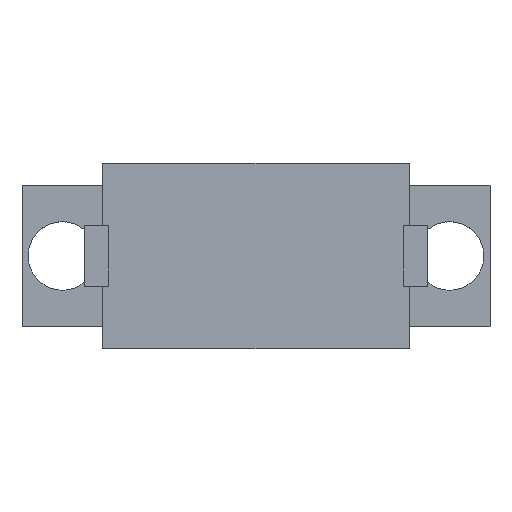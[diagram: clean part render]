
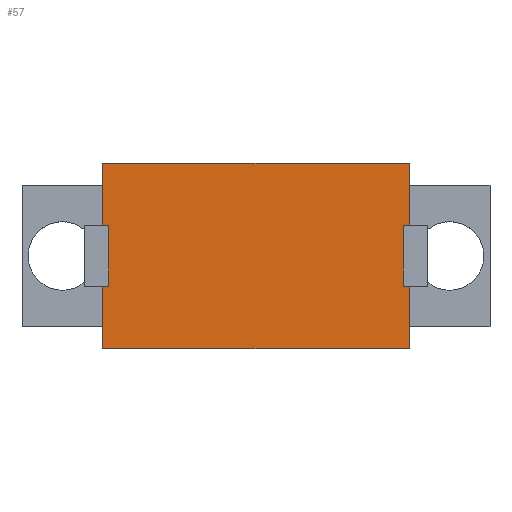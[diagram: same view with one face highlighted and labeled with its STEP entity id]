
A CAD part, top view. The second image highlights one B-rep face of the part: STEP entity #57.
In plain terms, the highlighted planar face has unit normal (0, 0, 1).
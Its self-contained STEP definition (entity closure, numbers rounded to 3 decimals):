
#21 = EDGE_CURVE('',#22,#24,#26,.T.);
#22 = VERTEX_POINT('',#23);
#23 = CARTESIAN_POINT('',(21.425,27.65,18.85));
#24 = VERTEX_POINT('',#25);
#25 = CARTESIAN_POINT('',(21.425,28.75,18.85));
#26 = LINE('',#27,#28);
#27 = CARTESIAN_POINT('',(21.425,27.65,18.85));
#28 = VECTOR('',#29,1.);
#29 = DIRECTION('',(0.,1.,0.));
#57 = ADVANCED_FACE('',(#58),#179,.T.);
#58 = FACE_BOUND('',#59,.T.);
#59 = EDGE_LOOP('',(#60,#61,#69,#77,#85,#93,#101,#109,#117,#125,#133,
    #141,#149,#157,#165,#173));
#60 = ORIENTED_EDGE('',*,*,#21,.F.);
#61 = ORIENTED_EDGE('',*,*,#62,.T.);
#62 = EDGE_CURVE('',#22,#63,#65,.T.);
#63 = VERTEX_POINT('',#64);
#64 = CARTESIAN_POINT('',(36.625,27.65,18.85));
#65 = LINE('',#66,#67);
#66 = CARTESIAN_POINT('',(21.425,27.65,18.85));
#67 = VECTOR('',#68,1.);
#68 = DIRECTION('',(1.,0.,0.));
#69 = ORIENTED_EDGE('',*,*,#70,.T.);
#70 = EDGE_CURVE('',#63,#71,#73,.T.);
#71 = VERTEX_POINT('',#72);
#72 = CARTESIAN_POINT('',(36.625,28.75,18.85));
#73 = LINE('',#74,#75);
#74 = CARTESIAN_POINT('',(36.625,27.65,18.85));
#75 = VECTOR('',#76,1.);
#76 = DIRECTION('',(0.,1.,0.));
#77 = ORIENTED_EDGE('',*,*,#78,.T.);
#78 = EDGE_CURVE('',#71,#79,#81,.T.);
#79 = VERTEX_POINT('',#80);
#80 = CARTESIAN_POINT('',(36.625,30.75,18.85));
#81 = LINE('',#82,#83);
#82 = CARTESIAN_POINT('',(36.625,27.65,18.85));
#83 = VECTOR('',#84,1.);
#84 = DIRECTION('',(0.,1.,0.));
#85 = ORIENTED_EDGE('',*,*,#86,.T.);
#86 = EDGE_CURVE('',#79,#87,#89,.T.);
#87 = VERTEX_POINT('',#88);
#88 = CARTESIAN_POINT('',(36.325,30.75,18.85));
#89 = LINE('',#90,#91);
#90 = CARTESIAN_POINT('',(28.875,30.75,18.85));
#91 = VECTOR('',#92,1.);
#92 = DIRECTION('',(-1.,0.,0.));
#93 = ORIENTED_EDGE('',*,*,#94,.T.);
#94 = EDGE_CURVE('',#87,#95,#97,.T.);
#95 = VERTEX_POINT('',#96);
#96 = CARTESIAN_POINT('',(36.325,33.75,18.85));
#97 = LINE('',#98,#99);
#98 = CARTESIAN_POINT('',(36.325,29.2,18.85));
#99 = VECTOR('',#100,1.);
#100 = DIRECTION('',(0.,1.,0.));
#101 = ORIENTED_EDGE('',*,*,#102,.F.);
#102 = EDGE_CURVE('',#103,#95,#105,.T.);
#103 = VERTEX_POINT('',#104);
#104 = CARTESIAN_POINT('',(36.625,33.75,18.85));
#105 = LINE('',#106,#107);
#106 = CARTESIAN_POINT('',(28.875,33.75,18.85));
#107 = VECTOR('',#108,1.);
#108 = DIRECTION('',(-1.,0.,0.));
#109 = ORIENTED_EDGE('',*,*,#110,.T.);
#110 = EDGE_CURVE('',#103,#111,#113,.T.);
#111 = VERTEX_POINT('',#112);
#112 = CARTESIAN_POINT('',(36.625,35.75,18.85));
#113 = LINE('',#114,#115);
#114 = CARTESIAN_POINT('',(36.625,27.65,18.85));
#115 = VECTOR('',#116,1.);
#116 = DIRECTION('',(0.,1.,0.));
#117 = ORIENTED_EDGE('',*,*,#118,.T.);
#118 = EDGE_CURVE('',#111,#119,#121,.T.);
#119 = VERTEX_POINT('',#120);
#120 = CARTESIAN_POINT('',(36.625,36.85,18.85));
#121 = LINE('',#122,#123);
#122 = CARTESIAN_POINT('',(36.625,27.65,18.85));
#123 = VECTOR('',#124,1.);
#124 = DIRECTION('',(0.,1.,0.));
#125 = ORIENTED_EDGE('',*,*,#126,.F.);
#126 = EDGE_CURVE('',#127,#119,#129,.T.);
#127 = VERTEX_POINT('',#128);
#128 = CARTESIAN_POINT('',(21.425,36.85,18.85));
#129 = LINE('',#130,#131);
#130 = CARTESIAN_POINT('',(21.425,36.85,18.85));
#131 = VECTOR('',#132,1.);
#132 = DIRECTION('',(1.,0.,0.));
#133 = ORIENTED_EDGE('',*,*,#134,.F.);
#134 = EDGE_CURVE('',#135,#127,#137,.T.);
#135 = VERTEX_POINT('',#136);
#136 = CARTESIAN_POINT('',(21.425,35.75,18.85));
#137 = LINE('',#138,#139);
#138 = CARTESIAN_POINT('',(21.425,27.65,18.85));
#139 = VECTOR('',#140,1.);
#140 = DIRECTION('',(0.,1.,0.));
#141 = ORIENTED_EDGE('',*,*,#142,.F.);
#142 = EDGE_CURVE('',#143,#135,#145,.T.);
#143 = VERTEX_POINT('',#144);
#144 = CARTESIAN_POINT('',(21.425,33.75,18.85));
#145 = LINE('',#146,#147);
#146 = CARTESIAN_POINT('',(21.425,27.65,18.85));
#147 = VECTOR('',#148,1.);
#148 = DIRECTION('',(0.,1.,0.));
#149 = ORIENTED_EDGE('',*,*,#150,.F.);
#150 = EDGE_CURVE('',#151,#143,#153,.T.);
#151 = VERTEX_POINT('',#152);
#152 = CARTESIAN_POINT('',(21.725,33.75,18.85));
#153 = LINE('',#154,#155);
#154 = CARTESIAN_POINT('',(20.975,33.75,18.85));
#155 = VECTOR('',#156,1.);
#156 = DIRECTION('',(-1.,0.,0.));
#157 = ORIENTED_EDGE('',*,*,#158,.F.);
#158 = EDGE_CURVE('',#159,#151,#161,.T.);
#159 = VERTEX_POINT('',#160);
#160 = CARTESIAN_POINT('',(21.725,30.75,18.85));
#161 = LINE('',#162,#163);
#162 = CARTESIAN_POINT('',(21.725,29.2,18.85));
#163 = VECTOR('',#164,1.);
#164 = DIRECTION('',(0.,1.,0.));
#165 = ORIENTED_EDGE('',*,*,#166,.T.);
#166 = EDGE_CURVE('',#159,#167,#169,.T.);
#167 = VERTEX_POINT('',#168);
#168 = CARTESIAN_POINT('',(21.425,30.75,18.85));
#169 = LINE('',#170,#171);
#170 = CARTESIAN_POINT('',(20.975,30.75,18.85));
#171 = VECTOR('',#172,1.);
#172 = DIRECTION('',(-1.,0.,0.));
#173 = ORIENTED_EDGE('',*,*,#174,.F.);
#174 = EDGE_CURVE('',#24,#167,#175,.T.);
#175 = LINE('',#176,#177);
#176 = CARTESIAN_POINT('',(21.425,27.65,18.85));
#177 = VECTOR('',#178,1.);
#178 = DIRECTION('',(0.,1.,0.));
#179 = PLANE('',#180);
#180 = AXIS2_PLACEMENT_3D('',#181,#182,#183);
#181 = CARTESIAN_POINT('',(21.425,27.65,18.85));
#182 = DIRECTION('',(0.,0.,1.));
#183 = DIRECTION('',(1.,0.,0.));
